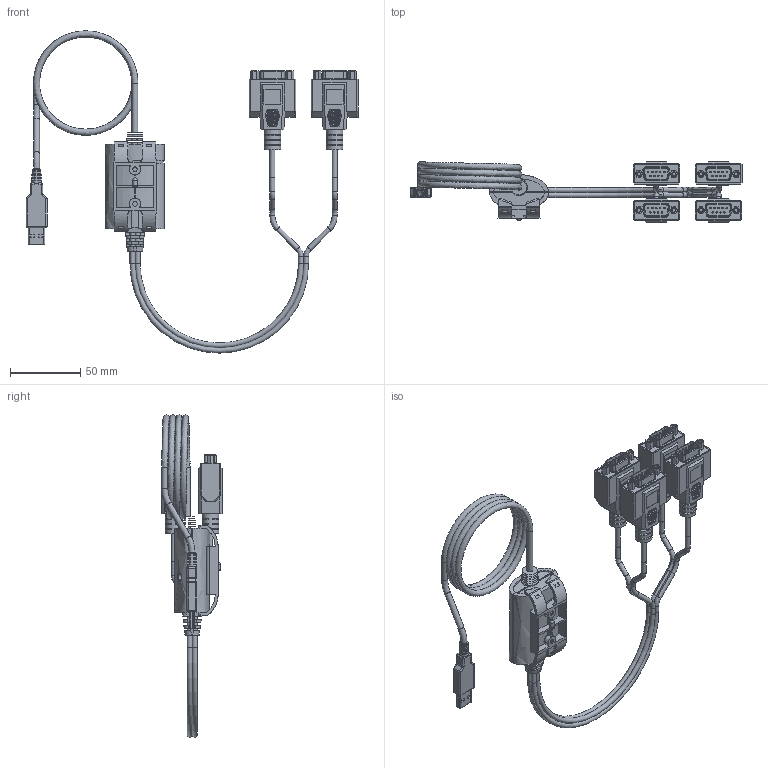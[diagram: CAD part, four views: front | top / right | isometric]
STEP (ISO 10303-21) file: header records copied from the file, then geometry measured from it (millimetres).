
FILE_DESCRIPTION(/* description */ (''),/* implementation_level */ '2;1');
FILE_NAME(/* name */ 'C:/Users/Leo/Desktop/AA CoolGear CADs/CG-4X232FTDI/CG-4X232FTDI.step',/* time_stamp */ '2021-06-28T15:43:33-04:00',/* author */ (''),/* organization */ (''),/* preprocessor_version */ 'ST-DEVELOPER v18.1',/* originating_system */ 'Autodesk Translation Framework v10.9.0.1377',/* authorisation */ '');
FILE_SCHEMA (('AUTOMOTIVE_DESIGN { 1 0 10303 214 3 1 1 }'));
Products named in the file (1): FusionComponent
Bounding box: 236.44 x 43.28 x 229.45 mm (x, y, z)
Volume: 154705.4 mm3; surface area: 70457.5 mm2
Topology: 2 solids, 2 shells, 1617 faces, 4298 edges, 2737 vertices
Faces by surface type: plane 962, cylinder 447, torus 94, sphere 49, bspline 40, cone 25
Full cylindrical faces by diameter (mm): 1 x36, 2.6 x8, 3.22 x2, 3.6 x12, 4.3 x4, 11.92 x4
Entity records: 55685 total; most frequent: CARTESIAN_POINT 15364, ORIENTED_EDGE 8498, DIRECTION 8303, EDGE_CURVE 4249, LINE 2769, VECTOR 2769, AXIS2_PLACEMENT_3D 2767, VERTEX_POINT 2737
